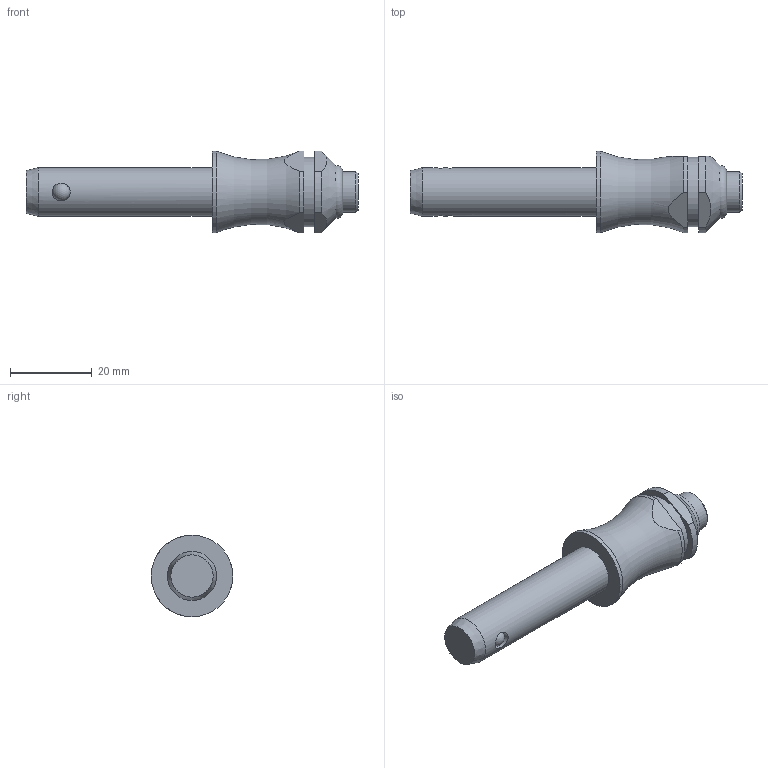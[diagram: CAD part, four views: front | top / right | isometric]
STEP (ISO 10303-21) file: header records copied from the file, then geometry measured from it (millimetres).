
FILE_DESCRIPTION( ( 'STEP AP203' ), '1' );
FILE_NAME( 'C:/Temp/Ganter_Step_05_03_2020/data/3_1/gn113_3/Stainless Steel-Ball lock pin GN 113.3-12-35 (activated).stp', '2020-03-12T08:18:42', ( 'License CC BY-ND 4.0' ), ( 'CADENAS' ), ' ', 'PARTsolutions', ' ' );
FILE_SCHEMA( ( 'CONFIG_CONTROL_DESIGN' ) );
Length unit declared in the file: millimetre
Products named in the file (1): _Stainless Steel-Ball lock pin GN 113.3-12-35 (activated)
Bounding box: 81.35 x 20 x 20 mm (x, y, z)
Volume: 12762.5 mm3; surface area: 4235.9 mm2
Topology: 1 solids, 1 shells, 30 faces, 72 edges, 45 vertices
Faces by surface type: cylinder 12, plane 11, cone 3, torus 2, sphere 2
Full cylindrical faces by diameter (mm): 4.4 x2, 10 x1, 12 x1, 17 x1, 20 x1
Entity records: 1010 total; most frequent: CARTESIAN_POINT 360, DIRECTION 130, ORIENTED_EDGE 102, AXIS2_PLACEMENT_3D 56, EDGE_CURVE 51, EDGE_LOOP 46, VERTEX_POINT 40, FACE_OUTER_BOUND 38
